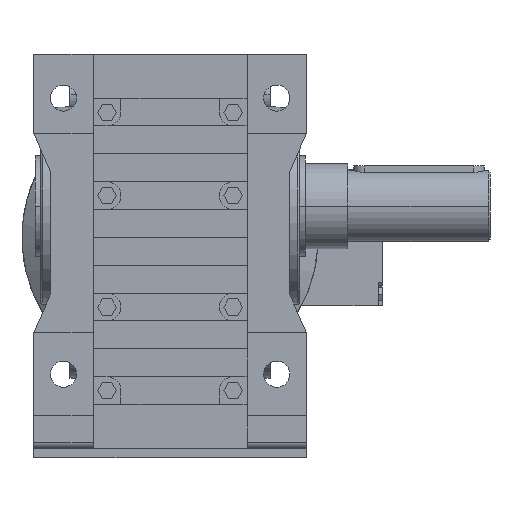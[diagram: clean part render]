
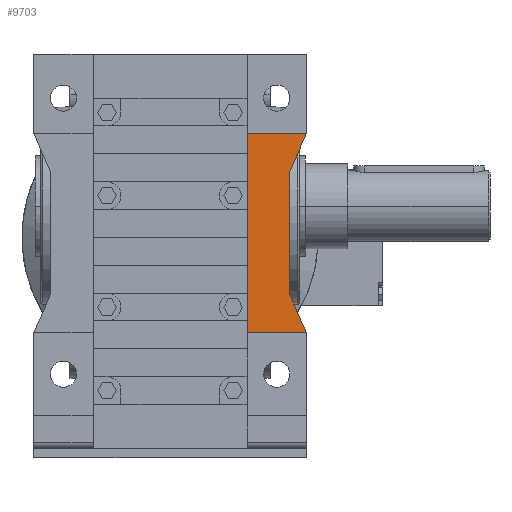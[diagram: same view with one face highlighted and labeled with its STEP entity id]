
A CAD part, top view. The second image highlights one B-rep face of the part: STEP entity #9703.
In plain terms, the highlighted planar face has unit normal (0, 0, 1).
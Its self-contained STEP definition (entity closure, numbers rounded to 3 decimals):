
#470 = PLANE('',#471);
#471 = AXIS2_PLACEMENT_3D('',#472,#473,#474);
#472 = CARTESIAN_POINT('',(101.,29.,132.));
#473 = DIRECTION('',(0.916,-0.401,0.));
#474 = DIRECTION('',(0.401,0.916,0.));
#498 = PLANE('',#499);
#499 = AXIS2_PLACEMENT_3D('',#500,#501,#502);
#500 = CARTESIAN_POINT('',(101.,-75.,132.));
#501 = DIRECTION('',(1.,0.,0.));
#502 = DIRECTION('',(0.,1.,0.));
#526 = PLANE('',#527);
#527 = AXIS2_PLACEMENT_3D('',#528,#529,#530);
#528 = CARTESIAN_POINT('',(115.,-107.,132.));
#529 = DIRECTION('',(0.916,0.401,0.));
#530 = DIRECTION('',(-0.401,0.916,0.));
#866 = PLANE('',#867);
#867 = AXIS2_PLACEMENT_3D('',#868,#869,#870);
#868 = CARTESIAN_POINT('',(115.,-107.,132.));
#869 = DIRECTION('',(0.,-1.,0.));
#870 = DIRECTION('',(0.,0.,-1.));
#894 = PLANE('',#895);
#895 = AXIS2_PLACEMENT_3D('',#896,#897,#898);
#896 = CARTESIAN_POINT('',(65.,128.,112.29));
#897 = DIRECTION('',(1.,0.,0.));
#898 = DIRECTION('',(0.,0.,-1.));
#2385 = EDGE_CURVE('',#2386,#2388,#2390,.T.);
#2386 = VERTEX_POINT('',#2387);
#2387 = CARTESIAN_POINT('',(115.,61.,128.29));
#2388 = VERTEX_POINT('',#2389);
#2389 = CARTESIAN_POINT('',(101.,29.,128.29));
#2390 = SURFACE_CURVE('',#2391,(#2395,#2402),.PCURVE_S1.);
#2391 = LINE('',#2392,#2393);
#2392 = CARTESIAN_POINT('',(115.,61.,128.29));
#2393 = VECTOR('',#2394,1.);
#2394 = DIRECTION('',(-0.401,-0.916,
    0.));
#2395 = PCURVE('',#470,#2396);
#2396 = DEFINITIONAL_REPRESENTATION('',(#2397),#2401);
#2397 = LINE('',#2398,#2399);
#2398 = CARTESIAN_POINT('',(34.928,-3.71));
#2399 = VECTOR('',#2400,1.);
#2400 = DIRECTION('',(-1.,0.));
#2401 = ( GEOMETRIC_REPRESENTATION_CONTEXT(2) 
PARAMETRIC_REPRESENTATION_CONTEXT() REPRESENTATION_CONTEXT('2D SPACE',''
  ) );
#2402 = PCURVE('',#2403,#2408);
#2403 = PLANE('',#2404);
#2404 = AXIS2_PLACEMENT_3D('',#2405,#2406,#2407);
#2405 = CARTESIAN_POINT('',(115.,61.,128.29));
#2406 = DIRECTION('',(0.,0.,-1.));
#2407 = DIRECTION('',(0.,1.,0.));
#2408 = DEFINITIONAL_REPRESENTATION('',(#2409),#2413);
#2409 = LINE('',#2410,#2411);
#2410 = CARTESIAN_POINT('',(0.,0.));
#2411 = VECTOR('',#2412,1.);
#2412 = DIRECTION('',(-0.916,-0.401));
#2413 = ( GEOMETRIC_REPRESENTATION_CONTEXT(2) 
PARAMETRIC_REPRESENTATION_CONTEXT() REPRESENTATION_CONTEXT('2D SPACE',''
  ) );
#2807 = EDGE_CURVE('',#2808,#2810,#2812,.T.);
#2808 = VERTEX_POINT('',#2809);
#2809 = CARTESIAN_POINT('',(101.,-75.,128.29));
#2810 = VERTEX_POINT('',#2811);
#2811 = CARTESIAN_POINT('',(115.,-107.,128.29));
#2812 = SURFACE_CURVE('',#2813,(#2817,#2824),.PCURVE_S1.);
#2813 = LINE('',#2814,#2815);
#2814 = CARTESIAN_POINT('',(53.308,34.01,128.29));
#2815 = VECTOR('',#2816,1.);
#2816 = DIRECTION('',(0.401,-0.916,0.
    ));
#2817 = PCURVE('',#526,#2818);
#2818 = DEFINITIONAL_REPRESENTATION('',(#2819),#2823);
#2819 = LINE('',#2820,#2821);
#2820 = CARTESIAN_POINT('',(153.914,-3.71));
#2821 = VECTOR('',#2822,1.);
#2822 = DIRECTION('',(-1.,0.));
#2823 = ( GEOMETRIC_REPRESENTATION_CONTEXT(2) 
PARAMETRIC_REPRESENTATION_CONTEXT() REPRESENTATION_CONTEXT('2D SPACE',''
  ) );
#2824 = PCURVE('',#2403,#2825);
#2825 = DEFINITIONAL_REPRESENTATION('',(#2826),#2830);
#2826 = LINE('',#2827,#2828);
#2827 = CARTESIAN_POINT('',(-26.99,-61.692));
#2828 = VECTOR('',#2829,1.);
#2829 = DIRECTION('',(-0.916,0.401));
#2830 = ( GEOMETRIC_REPRESENTATION_CONTEXT(2) 
PARAMETRIC_REPRESENTATION_CONTEXT() REPRESENTATION_CONTEXT('2D SPACE',''
  ) );
#3802 = EDGE_CURVE('',#2388,#2808,#3803,.T.);
#3803 = SURFACE_CURVE('',#3804,(#3808,#3815),.PCURVE_S1.);
#3804 = LINE('',#3805,#3806);
#3805 = CARTESIAN_POINT('',(101.,61.,128.29));
#3806 = VECTOR('',#3807,1.);
#3807 = DIRECTION('',(0.,-1.,0.));
#3808 = PCURVE('',#498,#3809);
#3809 = DEFINITIONAL_REPRESENTATION('',(#3810),#3814);
#3810 = LINE('',#3811,#3812);
#3811 = CARTESIAN_POINT('',(136.,-3.71));
#3812 = VECTOR('',#3813,1.);
#3813 = DIRECTION('',(-1.,0.));
#3814 = ( GEOMETRIC_REPRESENTATION_CONTEXT(2) 
PARAMETRIC_REPRESENTATION_CONTEXT() REPRESENTATION_CONTEXT('2D SPACE',''
  ) );
#3815 = PCURVE('',#2403,#3816);
#3816 = DEFINITIONAL_REPRESENTATION('',(#3817),#3821);
#3817 = LINE('',#3818,#3819);
#3818 = CARTESIAN_POINT('',(0.,-14.));
#3819 = VECTOR('',#3820,1.);
#3820 = DIRECTION('',(-1.,0.));
#3821 = ( GEOMETRIC_REPRESENTATION_CONTEXT(2) 
PARAMETRIC_REPRESENTATION_CONTEXT() REPRESENTATION_CONTEXT('2D SPACE',''
  ) );
#4688 = PLANE('',#4689);
#4689 = AXIS2_PLACEMENT_3D('',#4690,#4691,#4692);
#4690 = CARTESIAN_POINT('',(115.,61.,132.));
#4691 = DIRECTION('',(0.,1.,0.));
#4692 = DIRECTION('',(0.,0.,1.));
#5918 = VERTEX_POINT('',#5919);
#5919 = CARTESIAN_POINT('',(65.,-107.,128.29));
#5940 = EDGE_CURVE('',#5941,#5918,#5943,.T.);
#5941 = VERTEX_POINT('',#5942);
#5942 = CARTESIAN_POINT('',(65.,61.,128.29));
#5943 = SURFACE_CURVE('',#5944,(#5948,#5955),.PCURVE_S1.);
#5944 = LINE('',#5945,#5946);
#5945 = CARTESIAN_POINT('',(65.,61.,128.29));
#5946 = VECTOR('',#5947,1.);
#5947 = DIRECTION('',(0.,-1.,0.));
#5948 = PCURVE('',#894,#5949);
#5949 = DEFINITIONAL_REPRESENTATION('',(#5950),#5954);
#5950 = LINE('',#5951,#5952);
#5951 = CARTESIAN_POINT('',(-16.,-67.));
#5952 = VECTOR('',#5953,1.);
#5953 = DIRECTION('',(0.,-1.));
#5954 = ( GEOMETRIC_REPRESENTATION_CONTEXT(2) 
PARAMETRIC_REPRESENTATION_CONTEXT() REPRESENTATION_CONTEXT('2D SPACE',''
  ) );
#5955 = PCURVE('',#2403,#5956);
#5956 = DEFINITIONAL_REPRESENTATION('',(#5957),#5961);
#5957 = LINE('',#5958,#5959);
#5958 = CARTESIAN_POINT('',(0.,-50.));
#5959 = VECTOR('',#5960,1.);
#5960 = DIRECTION('',(-1.,0.));
#5961 = ( GEOMETRIC_REPRESENTATION_CONTEXT(2) 
PARAMETRIC_REPRESENTATION_CONTEXT() REPRESENTATION_CONTEXT('2D SPACE',''
  ) );
#6014 = EDGE_CURVE('',#2810,#5918,#6015,.T.);
#6015 = SURFACE_CURVE('',#6016,(#6020,#6027),.PCURVE_S1.);
#6016 = LINE('',#6017,#6018);
#6017 = CARTESIAN_POINT('',(115.,-107.,128.29));
#6018 = VECTOR('',#6019,1.);
#6019 = DIRECTION('',(-1.,0.,0.));
#6020 = PCURVE('',#866,#6021);
#6021 = DEFINITIONAL_REPRESENTATION('',(#6022),#6026);
#6022 = LINE('',#6023,#6024);
#6023 = CARTESIAN_POINT('',(3.71,0.));
#6024 = VECTOR('',#6025,1.);
#6025 = DIRECTION('',(0.,-1.));
#6026 = ( GEOMETRIC_REPRESENTATION_CONTEXT(2) 
PARAMETRIC_REPRESENTATION_CONTEXT() REPRESENTATION_CONTEXT('2D SPACE',''
  ) );
#6027 = PCURVE('',#2403,#6028);
#6028 = DEFINITIONAL_REPRESENTATION('',(#6029),#6033);
#6029 = LINE('',#6030,#6031);
#6030 = CARTESIAN_POINT('',(-168.,0.));
#6031 = VECTOR('',#6032,1.);
#6032 = DIRECTION('',(0.,-1.));
#6033 = ( GEOMETRIC_REPRESENTATION_CONTEXT(2) 
PARAMETRIC_REPRESENTATION_CONTEXT() REPRESENTATION_CONTEXT('2D SPACE',''
  ) );
#9703 = ADVANCED_FACE('',(#9704),#2403,.F.);
#9704 = FACE_BOUND('',#9705,.T.);
#9705 = EDGE_LOOP('',(#9706,#9727,#9728,#9729,#9730,#9731));
#9706 = ORIENTED_EDGE('',*,*,#9707,.T.);
#9707 = EDGE_CURVE('',#2386,#5941,#9708,.T.);
#9708 = SURFACE_CURVE('',#9709,(#9713,#9720),.PCURVE_S1.);
#9709 = LINE('',#9710,#9711);
#9710 = CARTESIAN_POINT('',(115.,61.,128.29));
#9711 = VECTOR('',#9712,1.);
#9712 = DIRECTION('',(-1.,0.,0.));
#9713 = PCURVE('',#2403,#9714);
#9714 = DEFINITIONAL_REPRESENTATION('',(#9715),#9719);
#9715 = LINE('',#9716,#9717);
#9716 = CARTESIAN_POINT('',(0.,0.));
#9717 = VECTOR('',#9718,1.);
#9718 = DIRECTION('',(0.,-1.));
#9719 = ( GEOMETRIC_REPRESENTATION_CONTEXT(2) 
PARAMETRIC_REPRESENTATION_CONTEXT() REPRESENTATION_CONTEXT('2D SPACE',''
  ) );
#9720 = PCURVE('',#4688,#9721);
#9721 = DEFINITIONAL_REPRESENTATION('',(#9722),#9726);
#9722 = LINE('',#9723,#9724);
#9723 = CARTESIAN_POINT('',(-3.71,0.));
#9724 = VECTOR('',#9725,1.);
#9725 = DIRECTION('',(0.,-1.));
#9726 = ( GEOMETRIC_REPRESENTATION_CONTEXT(2) 
PARAMETRIC_REPRESENTATION_CONTEXT() REPRESENTATION_CONTEXT('2D SPACE',''
  ) );
#9727 = ORIENTED_EDGE('',*,*,#5940,.T.);
#9728 = ORIENTED_EDGE('',*,*,#6014,.F.);
#9729 = ORIENTED_EDGE('',*,*,#2807,.F.);
#9730 = ORIENTED_EDGE('',*,*,#3802,.F.);
#9731 = ORIENTED_EDGE('',*,*,#2385,.F.);
